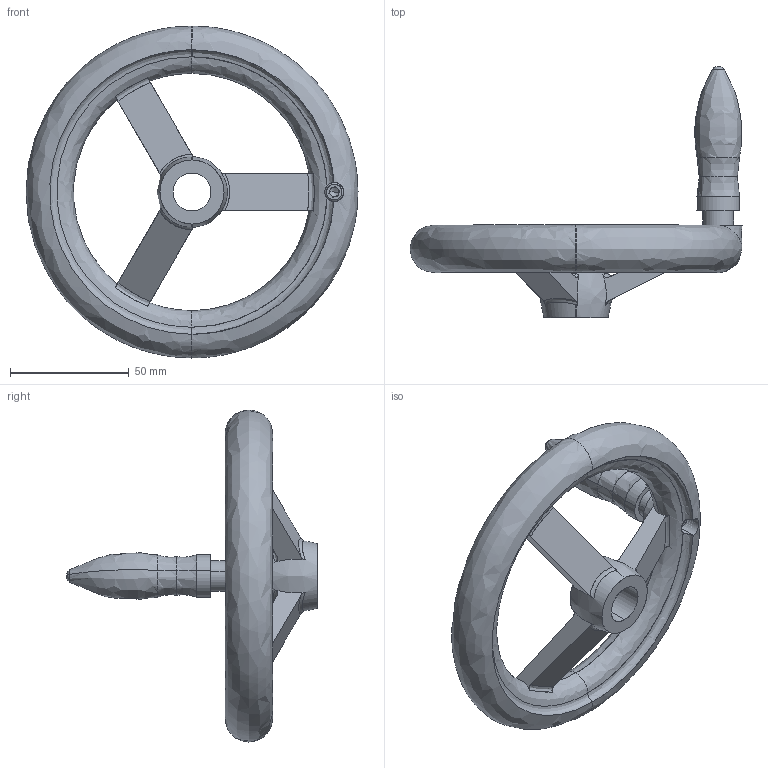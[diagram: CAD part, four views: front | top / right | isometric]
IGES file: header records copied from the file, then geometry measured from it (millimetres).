
Start section: SolidWorks IGES file using analytic representation for surfaces
Global section: file name: C:\Users\IanO\Desktop\Temp File\Process pending\77120_v2\77120_v2_20171108_IGES\77120.W0216.igs; native system: SolidWorks 2017; preprocessor: SolidWorks 2017; author: IanO; date: 171108.084342; units: millimetre
Bounding box: 140 x 106 x 140 mm (x, y, z)
Surface area: 40073.1 mm2 (no closed solid volume)
Topology: 0 solids, 0 shells, 144 faces, 1829 edges, 1822 vertices
Faces by surface type: bspline 82, revolution 62
